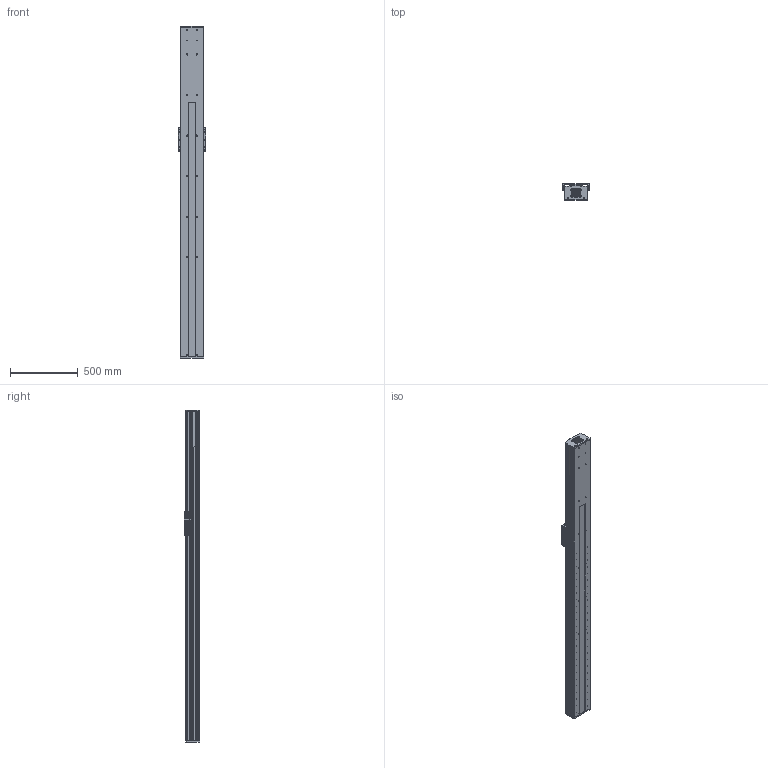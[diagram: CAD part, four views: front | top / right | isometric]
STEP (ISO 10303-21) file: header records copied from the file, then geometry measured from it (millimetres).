
FILE_DESCRIPTION (( 'STEP AP203' ), '1' );
FILE_NAME ('CF175-2-P2100.STEP', '2016-02-23T07:51:03', ( 'Sky123.Org' ), ( 'Sky123.Org' ), 'SwSTEP 2.0', 'SolidWorks 2015', '' );
FILE_SCHEMA (( 'CONFIG_CONTROL_DESIGN' ));
Length unit declared in the file: millimetre
Products named in the file (13): CF175-2蹟譫釱; Y1-CF175-2-P1200-1547裔啣; Y1-CF175-2-P1200-1547臏倰第; Y1-HGR20-1500絳寢; CF-HGH20CA賑輸; CF175-2賑雄啣; SFU2505-4; 175-2梓袧嘐隅釱; X1-SFS2525-1185; 175-2侜督80萇儂釱; 175-2耜啣; CF175-2-P2100; 175-2盓傅釱
Assembly tree (16 placements, depth 2):
  CF175-2-P2100
    CF-HGH20CA賑輸  x4
    SFU2505-4
    X1-SFS2525-1185
    175-2耜啣
    175-2盓傅釱
    CF175-2蹟譫釱
    Y1-CF175-2-P1200-1547裔啣
    Y1-CF175-2-P1200-1547臏倰第
    Y1-HGR20-1500絳寢  x2
    CF175-2賑雄啣
    175-2梓袧嘐隅釱
    175-2侜督80萇儂釱
Bounding box: 200 x 116.8 x 2455 mm (x, y, z)
Volume: 16181864.8 mm3; surface area: 4253394.5 mm2
Topology: 20 solids, 20 shells, 1575 faces, 4137 edges, 2740 vertices
Faces by surface type: cylinder 857, plane 694, cone 20, bspline 4
Entity records: 46222 total; most frequent: CARTESIAN_POINT 11888, DIRECTION 7184, ORIENTED_EDGE 6612, EDGE_CURVE 3306, AXIS2_PLACEMENT_3D 2725, VERTEX_POINT 2188, VECTOR 1734, LINE 1734
